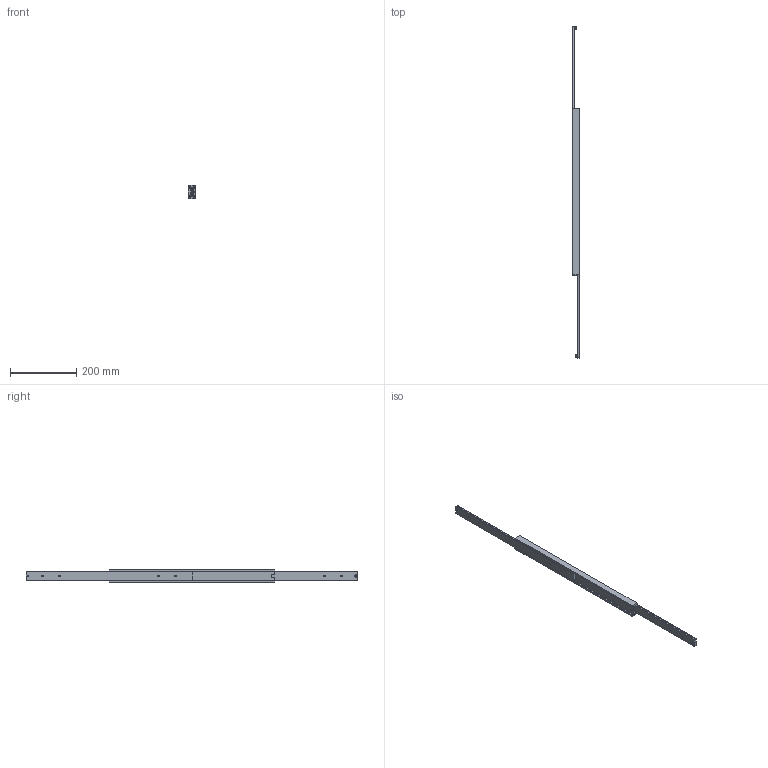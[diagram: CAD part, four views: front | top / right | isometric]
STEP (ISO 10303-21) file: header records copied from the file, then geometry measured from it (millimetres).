
FILE_DESCRIPTION(/* description */ (''),/* implementation_level */ '2;1');
FILE_NAME(/* name */ 'C:\Users\Miluxor\Desktop\Miluxor Schienen\Original Zeichnungen\Zeichnungen Schienen Komplett\MX-DTP40\MX-DTP40.050\MX-DTP40.050_ausgefahren.stp',/* time_stamp */ '2020-11-23T16:25:07+01:00',/* author */ ('Miluxor'),/* organization */ (''),/* preprocessor_version */ 'ST-DEVELOPER v16.13',/* originating_system */ 'AutoCAD Mechanical',/* authorisation */ '');
FILE_SCHEMA (('AUTOMOTIVE_DESIGN { 1 0 10303 214 3 1 1 }'));
Length unit declared in the file: millimetre
Products named in the file (1): Product
Bounding box: 24 x 1000 x 40 mm (x, y, z)
Volume: 375992.1 mm3; surface area: 185415.6 mm2
Topology: 53 solids, 53 shells, 324 faces, 822 edges, 544 vertices
Faces by surface type: plane 224, cylinder 54, sphere 32, bspline 8, torus 6
Full cylindrical faces by diameter (mm): 6 x40, 10 x2
Entity records: 14881 total; most frequent: CARTESIAN_POINT 7263, DIRECTION 1480, ORIENTED_EDGE 1416, EDGE_CURVE 708, LINE 546, VECTOR 546, VERTEX_POINT 542, AXIS2_PLACEMENT_3D 467
